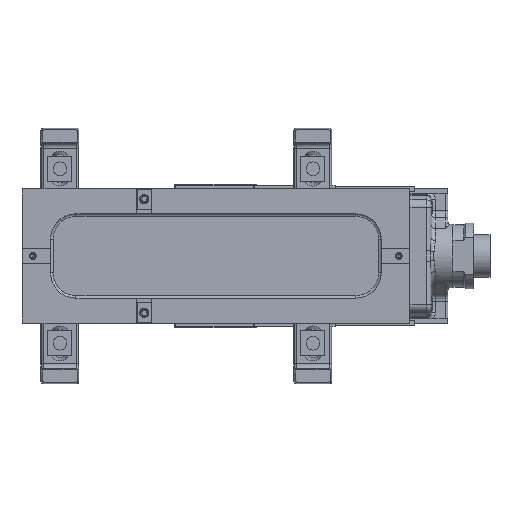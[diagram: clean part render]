
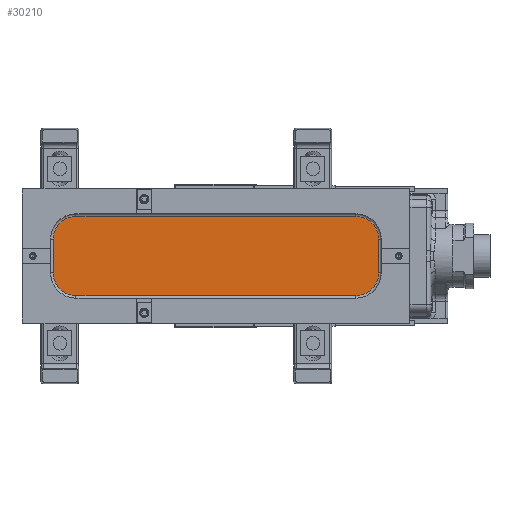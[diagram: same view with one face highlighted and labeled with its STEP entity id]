
A CAD part, front view. The second image highlights one B-rep face of the part: STEP entity #30210.
In plain terms, the highlighted planar face has unit normal (0, -1, 0).
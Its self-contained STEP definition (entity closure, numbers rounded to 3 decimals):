
#708 = DIRECTION ( 'NONE',  ( 0., -1., 0. ) ) ;
#1040 = DIRECTION ( 'NONE',  ( 0., 0., -1. ) ) ;
#3007 = CIRCLE ( 'NONE', #46603, 27. ) ;
#3148 = CARTESIAN_POINT ( 'NONE',  ( -108., -58., -20. ) ) ;
#3317 = CIRCLE ( 'NONE', #36488, 27. ) ;
#4344 = DIRECTION ( 'NONE',  ( 0., 0., 1. ) ) ;
#6609 = DIRECTION ( 'NONE',  ( 1., 0., 0. ) ) ;
#7124 = VERTEX_POINT ( 'NONE', #49953 ) ;
#8318 = CARTESIAN_POINT ( 'NONE',  ( 251., -58., -20. ) ) ;
#8643 = ORIENTED_EDGE ( 'NONE', *, *, #34551, .T. ) ;
#10425 = VECTOR ( 'NONE', #1040, 1000. ) ;
#11128 = DIRECTION ( 'NONE',  ( 0., 1., 0. ) ) ;
#11425 = DIRECTION ( 'NONE',  ( 0., 0., 1. ) ) ;
#12200 = VERTEX_POINT ( 'NONE', #17110 ) ;
#12346 = CIRCLE ( 'NONE', #17060, 27. ) ;
#12482 = DIRECTION ( 'NONE',  ( 0., 0., 1. ) ) ;
#13544 = CARTESIAN_POINT ( 'NONE',  ( 251., -58., 20. ) ) ;
#13936 = LINE ( 'NONE', #41820, #15677 ) ;
#14424 = FACE_OUTER_BOUND ( 'NONE', #19896, .T. ) ;
#15216 = CARTESIAN_POINT ( 'NONE',  ( -81., -58., 47. ) ) ;
#15677 = VECTOR ( 'NONE', #45097, 1000. ) ;
#16929 = VECTOR ( 'NONE', #23243, 1000. ) ;
#17060 = AXIS2_PLACEMENT_3D ( 'NONE', #8318, #22240, #12482 ) ;
#17110 = CARTESIAN_POINT ( 'NONE',  ( -108., -58., 20. ) ) ;
#18079 = CIRCLE ( 'NONE', #37004, 27. ) ;
#19163 = LINE ( 'NONE', #41704, #10425 ) ;
#19896 = EDGE_LOOP ( 'NONE', ( #49921, #23897, #26572, #38714, #26361, #44524, #32874, #8643 ) ) ;
#20997 = VERTEX_POINT ( 'NONE', #32604 ) ;
#21684 = EDGE_CURVE ( 'NONE', #24258, #55047, #55930, .T. ) ;
#22240 = DIRECTION ( 'NONE',  ( 0., -1., 0. ) ) ;
#22421 = CARTESIAN_POINT ( 'NONE',  ( -81., -58., 20. ) ) ;
#23243 = DIRECTION ( 'NONE',  ( -1., 0., 0. ) ) ;
#23609 = DIRECTION ( 'NONE',  ( 0., -1., 0. ) ) ;
#23836 = DIRECTION ( 'NONE',  ( 0., 0., 1. ) ) ;
#23897 = ORIENTED_EDGE ( 'NONE', *, *, #24242, .T. ) ;
#24242 = EDGE_CURVE ( 'NONE', #52190, #7124, #13936, .T. ) ;
#24258 = VERTEX_POINT ( 'NONE', #27582 ) ;
#25588 = CARTESIAN_POINT ( 'NONE',  ( 278., -58., -20. ) ) ;
#26361 = ORIENTED_EDGE ( 'NONE', *, *, #58227, .T. ) ;
#26572 = ORIENTED_EDGE ( 'NONE', *, *, #57088, .T. ) ;
#27582 = CARTESIAN_POINT ( 'NONE',  ( 251., -58., 47. ) ) ;
#28220 = EDGE_CURVE ( 'NONE', #12200, #37890, #19163, .T. ) ;
#29395 = AXIS2_PLACEMENT_3D ( 'NONE', #51821, #11128, #11425 ) ;
#30210 = ADVANCED_FACE ( 'NONE', ( #14424 ), #55419, .F. ) ;
#31585 = VECTOR ( 'NONE', #6609, 1000. ) ;
#32191 = CARTESIAN_POINT ( 'NONE',  ( -81., -58., -20. ) ) ;
#32604 = CARTESIAN_POINT ( 'NONE',  ( 251., -58., -47. ) ) ;
#32874 = ORIENTED_EDGE ( 'NONE', *, *, #45464, .T. ) ;
#33908 = CARTESIAN_POINT ( 'NONE',  ( -81., -58., -47. ) ) ;
#34479 = VERTEX_POINT ( 'NONE', #33908 ) ;
#34492 = LINE ( 'NONE', #47285, #31585 ) ;
#34551 = EDGE_CURVE ( 'NONE', #34479, #20997, #34492, .T. ) ;
#36282 = CARTESIAN_POINT ( 'NONE',  ( -81., -58., 47. ) ) ;
#36488 = AXIS2_PLACEMENT_3D ( 'NONE', #32191, #708, #23836 ) ;
#37004 = AXIS2_PLACEMENT_3D ( 'NONE', #13544, #23609, #4344 ) ;
#37890 = VERTEX_POINT ( 'NONE', #3148 ) ;
#38714 = ORIENTED_EDGE ( 'NONE', *, *, #21684, .T. ) ;
#40530 = DIRECTION ( 'NONE',  ( 0., -1., 0. ) ) ;
#41704 = CARTESIAN_POINT ( 'NONE',  ( -108., -58., -20. ) ) ;
#41820 = CARTESIAN_POINT ( 'NONE',  ( 278., -58., 20. ) ) ;
#44524 = ORIENTED_EDGE ( 'NONE', *, *, #28220, .T. ) ;
#45097 = DIRECTION ( 'NONE',  ( 0., 0., 1. ) ) ;
#45464 = EDGE_CURVE ( 'NONE', #37890, #34479, #3317, .T. ) ;
#46603 = AXIS2_PLACEMENT_3D ( 'NONE', #22421, #40530, #58666 ) ;
#47285 = CARTESIAN_POINT ( 'NONE',  ( 251., -58., -47. ) ) ;
#49921 = ORIENTED_EDGE ( 'NONE', *, *, #54416, .T. ) ;
#49953 = CARTESIAN_POINT ( 'NONE',  ( 278., -58., 20. ) ) ;
#51821 = CARTESIAN_POINT ( 'NONE',  ( 251., -58., 20. ) ) ;
#52190 = VERTEX_POINT ( 'NONE', #25588 ) ;
#54416 = EDGE_CURVE ( 'NONE', #20997, #52190, #12346, .T. ) ;
#55047 = VERTEX_POINT ( 'NONE', #36282 ) ;
#55419 = PLANE ( 'NONE',  #29395 ) ;
#55930 = LINE ( 'NONE', #15216, #16929 ) ;
#57088 = EDGE_CURVE ( 'NONE', #7124, #24258, #18079, .T. ) ;
#58227 = EDGE_CURVE ( 'NONE', #55047, #12200, #3007, .T. ) ;
#58666 = DIRECTION ( 'NONE',  ( 0., 0., 1. ) ) ;
